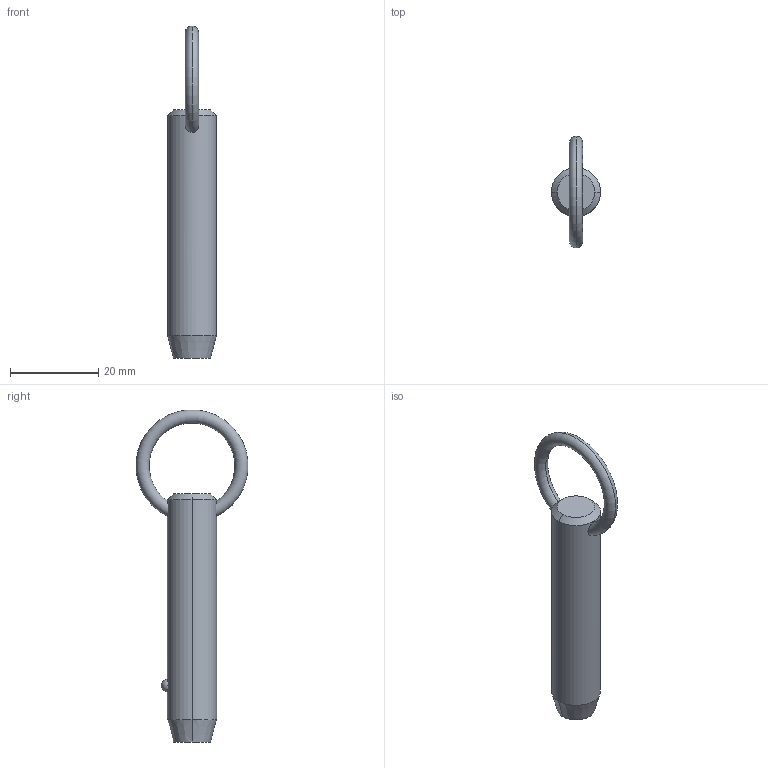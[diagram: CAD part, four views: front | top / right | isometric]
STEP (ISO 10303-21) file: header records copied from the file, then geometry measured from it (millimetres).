
FILE_DESCRIPTION (( 'STEP AP203' ), '1' );
FILE_NAME ('P1250.050-140.step', '2019-07-29T20:29:51', ( '' ), ( '' ), 'SwSTEP 2.0', 'SolidWorks 2017', '' );
FILE_SCHEMA (( 'CONFIG_CONTROL_DESIGN' ));
Length unit declared in the file: millimetre
Products named in the file (1): P1250.050-140
Bounding box: 11.1 x 25.32 x 75.15 mm (x, y, z)
Volume: 5721.1 mm3; surface area: 2612.4 mm2
Topology: 1 solids, 1 shells, 12 faces, 28 edges, 17 vertices
Faces by surface type: cone 4, torus 2, sphere 2, cylinder 2, plane 2
Entity records: 523 total; most frequent: CARTESIAN_POINT 190, DIRECTION 56, ORIENTED_EDGE 48, AXIS2_PLACEMENT_3D 25, EDGE_CURVE 24, EDGE_LOOP 15, VERTEX_POINT 15, CIRCLE 12
